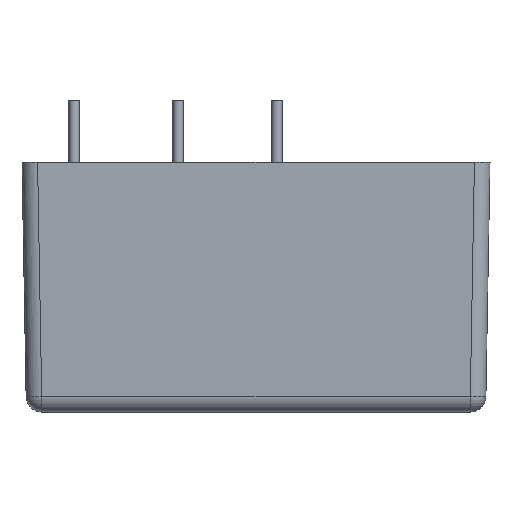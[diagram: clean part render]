
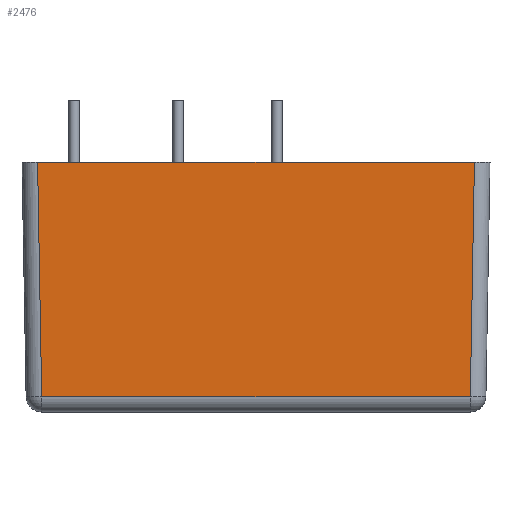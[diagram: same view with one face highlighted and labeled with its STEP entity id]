
A CAD part, front view. The second image highlights one B-rep face of the part: STEP entity #2476.
In plain terms, the highlighted planar face has unit normal (0, -1, -0.018).
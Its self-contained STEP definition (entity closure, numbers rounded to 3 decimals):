
#128=LINE('',#3684,#359);
#205=LINE('',#3894,#436);
#206=LINE('',#3896,#437);
#208=LINE('',#3899,#439);
#359=VECTOR('',#2972,42.);
#436=VECTOR('',#3175,22.533);
#437=VECTOR('',#3178,41.214);
#439=VECTOR('',#3182,22.533);
#647=FACE_OUTER_BOUND('',#790,.T.);
#790=EDGE_LOOP('',(#1927,#1928,#1929,#1930));
#1029=VERTEX_POINT('',#3681);
#1030=VERTEX_POINT('',#3683);
#1096=VERTEX_POINT('',#3869);
#1097=VERTEX_POINT('',#3873);
#1256=EDGE_CURVE('',#1029,#1030,#128,.T.);
#1367=EDGE_CURVE('',#1097,#1029,#205,.T.);
#1368=EDGE_CURVE('',#1096,#1097,#206,.T.);
#1370=EDGE_CURVE('',#1030,#1096,#208,.T.);
#1927=ORIENTED_EDGE('',*,*,#1370,.F.);
#1928=ORIENTED_EDGE('',*,*,#1256,.F.);
#1929=ORIENTED_EDGE('',*,*,#1367,.F.);
#1930=ORIENTED_EDGE('',*,*,#1368,.F.);
#2231=PLANE('',#2686);
#2476=ADVANCED_FACE('',(#647),#2231,.T.);
#2686=AXIS2_PLACEMENT_3D('',#3931,#3231,#3232);
#2972=DIRECTION('',(1.,0.,0.));
#3175=DIRECTION('',(-0.017,-0.017,1.));
#3178=DIRECTION('',(-1.,0.,0.));
#3182=DIRECTION('',(-0.017,0.017,-1.));
#3231=DIRECTION('center_axis',(0.,-1.,
-0.017));
#3232=DIRECTION('ref_axis',(0.,0.017,-1.));
#3681=CARTESIAN_POINT('',(-21.,-32.,1.3));
#3683=CARTESIAN_POINT('',(21.,-32.,1.3));
#3684=CARTESIAN_POINT('',(-22.5,-32.,1.3));
#3869=CARTESIAN_POINT('',(20.607,-31.607,-21.226));
#3873=CARTESIAN_POINT('',(-20.607,-31.607,-21.226));
#3894=CARTESIAN_POINT('',(-20.991,-31.991,0.768));
#3896=CARTESIAN_POINT('',(-11.25,-31.607,-21.226));
#3899=CARTESIAN_POINT('',(20.994,-31.994,0.934));
#3931=CARTESIAN_POINT('Origin',(-22.5,-32.,1.3));
